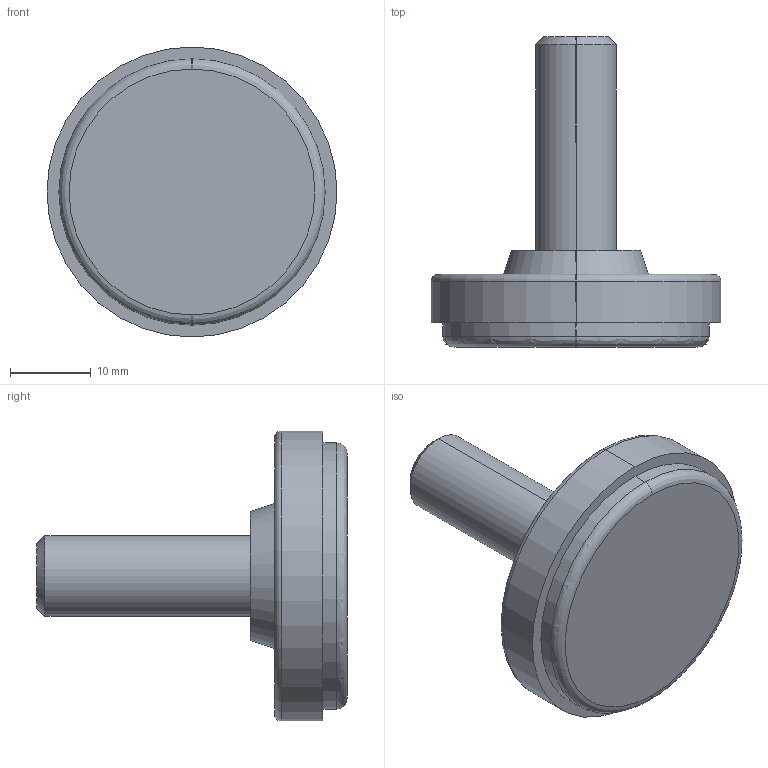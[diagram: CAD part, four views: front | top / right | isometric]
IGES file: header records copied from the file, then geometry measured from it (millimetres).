
Global section: file name: No Iges File Name specified; native system: AutoDesk Inventor R11.0; preprocessor: AutoDesk Inventor Iges Exporter R11.0; author: No Author specified; organization: No Organization specified; date: 20130722.154948; units: millimetre
Bounding box: 36 x 38.5 x 36 mm (x, y, z)
Surface area: 3856 mm2 (no closed solid volume)
Topology: 0 solids, 0 shells, 19 faces, 72 edges, 72 vertices
Faces by surface type: revolution 14, plane 5
